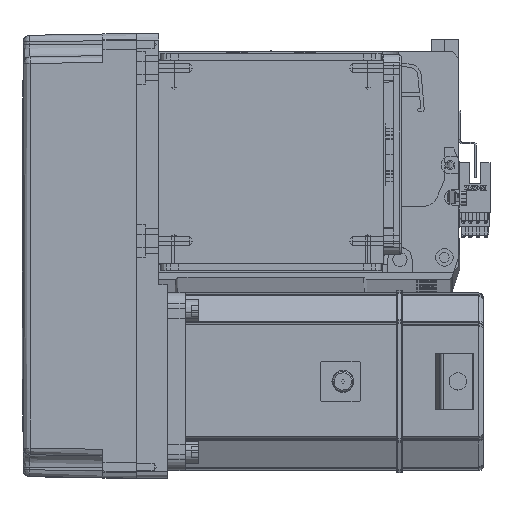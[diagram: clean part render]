
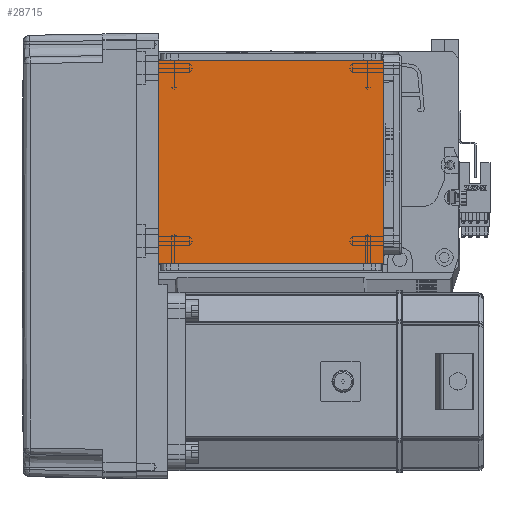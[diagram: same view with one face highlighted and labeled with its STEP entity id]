
A CAD part, top view. The second image highlights one B-rep face of the part: STEP entity #28715.
In plain terms, the highlighted planar face has unit normal (0, 0, 1).
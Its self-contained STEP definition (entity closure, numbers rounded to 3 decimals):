
#2179 = CARTESIAN_POINT ( 'NONE',  ( -50.5, 111.5, 115. ) ) ;
#2298 = LINE ( 'NONE', #21193, #57874 ) ;
#3420 = LINE ( 'NONE', #30565, #15213 ) ;
#4766 = DIRECTION ( 'NONE',  ( 1., 0., 0. ) ) ;
#6876 = ORIENTED_EDGE ( 'NONE', *, *, #44500, .T. ) ;
#10448 = CARTESIAN_POINT ( 'NONE',  ( 0., 0., 115. ) ) ;
#15213 = VECTOR ( 'NONE', #67770, 1000. ) ;
#16093 = CARTESIAN_POINT ( 'NONE',  ( -50.5, 20., 115. ) ) ;
#19147 = CARTESIAN_POINT ( 'NONE',  ( -50.5, 122., 115. ) ) ;
#19730 = VERTEX_POINT ( 'NONE', #2179 ) ;
#20010 = CARTESIAN_POINT ( 'NONE',  ( 50.5, 111.5, 115. ) ) ;
#21193 = CARTESIAN_POINT ( 'NONE',  ( -70.004, 20., 115. ) ) ;
#21318 = LINE ( 'NONE', #19147, #59111 ) ;
#24678 = CARTESIAN_POINT ( 'NONE',  ( 50.5, 122., 115. ) ) ;
#28632 = EDGE_CURVE ( 'NONE', #64122, #53125, #58405, .T. ) ;
#28715 = ADVANCED_FACE ( 'NONE', ( #35590 ), #56578, .T. ) ;
#28791 = VERTEX_POINT ( 'NONE', #16093 ) ;
#30565 = CARTESIAN_POINT ( 'NONE',  ( -70.004, 111.5, 115. ) ) ;
#34749 = ORIENTED_EDGE ( 'NONE', *, *, #45530, .F. ) ;
#34795 = CARTESIAN_POINT ( 'NONE',  ( 50.5, 20., 115. ) ) ;
#35590 = FACE_OUTER_BOUND ( 'NONE', #53210, .T. ) ;
#35656 = VECTOR ( 'NONE', #39891, 1000. ) ;
#39891 = DIRECTION ( 'NONE',  ( 0., 1., 0. ) ) ;
#40719 = DIRECTION ( 'NONE',  ( 0., -1., 0. ) ) ;
#44500 = EDGE_CURVE ( 'NONE', #19730, #28791, #21318, .T. ) ;
#45530 = EDGE_CURVE ( 'NONE', #19730, #53125, #3420, .T. ) ;
#46331 = ORIENTED_EDGE ( 'NONE', *, *, #64461, .F. ) ;
#53125 = VERTEX_POINT ( 'NONE', #20010 ) ;
#53210 = EDGE_LOOP ( 'NONE', ( #34749, #6876, #46331, #65869 ) ) ;
#53786 = DIRECTION ( 'NONE',  ( -1., 0., 0. ) ) ;
#56578 = PLANE ( 'NONE',  #68983 ) ;
#57874 = VECTOR ( 'NONE', #53786, 1000. ) ;
#58405 = LINE ( 'NONE', #24678, #35656 ) ;
#59111 = VECTOR ( 'NONE', #40719, 1000. ) ;
#64122 = VERTEX_POINT ( 'NONE', #34795 ) ;
#64461 = EDGE_CURVE ( 'NONE', #64122, #28791, #2298, .T. ) ;
#65869 = ORIENTED_EDGE ( 'NONE', *, *, #28632, .T. ) ;
#67770 = DIRECTION ( 'NONE',  ( 1., 0., 0. ) ) ;
#68983 = AXIS2_PLACEMENT_3D ( 'NONE', #10448, #69512, #4766 ) ;
#69512 = DIRECTION ( 'NONE',  ( 0., 0., 1. ) ) ;
